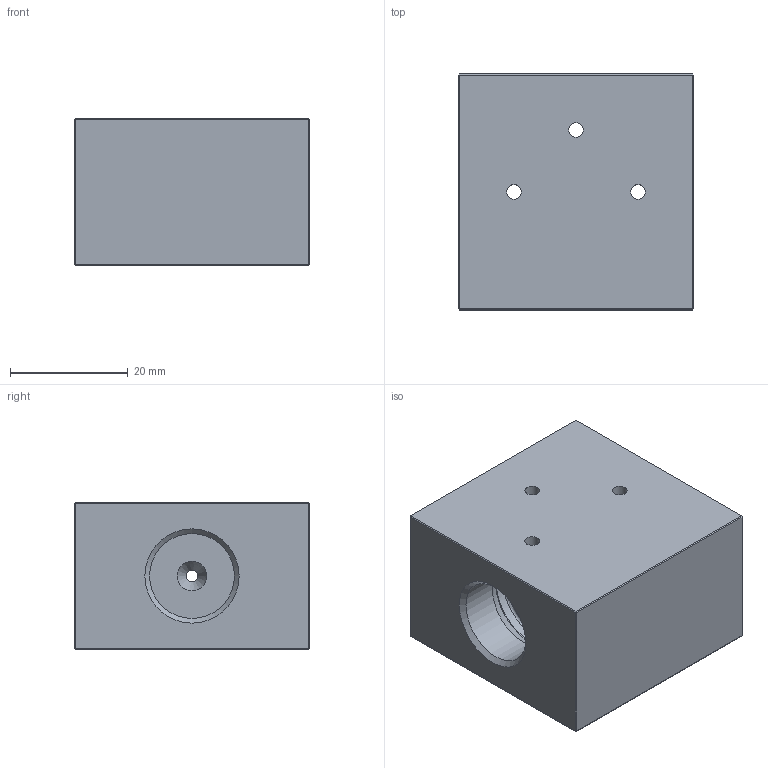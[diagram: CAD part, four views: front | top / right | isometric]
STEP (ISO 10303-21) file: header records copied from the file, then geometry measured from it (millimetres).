
FILE_DESCRIPTION(/* description */ (''),/* implementation_level */ '2;1');
FILE_NAME(/* name */ 'FIT.TEE.M16.4000.stp',/* time_stamp */ '2026-07-09T21:56:00+02:00',/* author */ ('janos'),/* organization */ (''),/* preprocessor_version */ 'ST-DEVELOPER v19.2',/* originating_system */ 'Autodesk Inventor 2024',/* authorisation */ '');
FILE_SCHEMA (('AUTOMOTIVE_DESIGN { 1 0 10303 214 3 1 1 }'));
Length unit declared in the file: millimetre
Products named in the file (1): W.16.1-4.4000
Bounding box: 40 x 40 x 25 mm (x, y, z)
Volume: 33850 mm3; surface area: 9134.3 mm2
Topology: 1 solids, 1 shells, 66 faces, 175 edges, 107 vertices
Faces by surface type: plane 29, cylinder 18, cone 10, torus 9
Full cylindrical faces by diameter (mm): 2 x2, 2.5 x6, 3 x1, 14.376 x3
Entity records: 2482 total; most frequent: CARTESIAN_POINT 834, ORIENTED_EDGE 348, DIRECTION 315, EDGE_CURVE 174, AXIS2_PLACEMENT_3D 122, VERTEX_POINT 107, EDGE_LOOP 79, LINE 71
